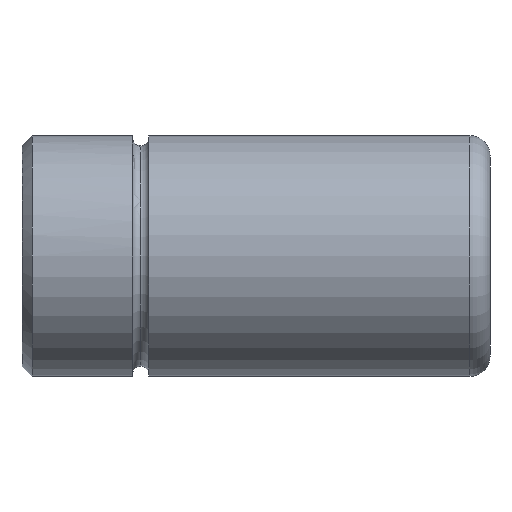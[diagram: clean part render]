
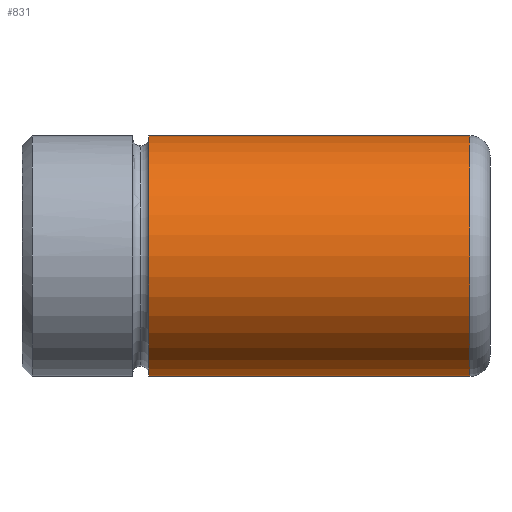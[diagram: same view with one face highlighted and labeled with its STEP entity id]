
A CAD part, front view. The second image highlights one B-rep face of the part: STEP entity #831.
In plain terms, the highlighted cylindrical face has radius 18 mm (diameter 36 mm), a partial arc.
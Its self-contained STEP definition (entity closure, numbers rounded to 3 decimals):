
#647=CARTESIAN_POINT('Vertex',(18.975,0.,18.)) ;
#654=CARTESIAN_POINT('Vertex',(18.975,0.,-18.)) ;
#680=CARTESIAN_POINT('Axis2P3D Location',(18.975,0.,0.)) ;
#684=CARTESIAN_POINT('Vertex',(18.975,-18.,0.)) ;
#687=CARTESIAN_POINT('Axis2P3D Location',(18.975,0.,0.)) ;
#771=CARTESIAN_POINT('Line Origine',(70.,0.,18.)) ;
#775=CARTESIAN_POINT('Vertex',(67.,0.,18.)) ;
#789=CARTESIAN_POINT('Vertex',(67.,0.,-18.)) ;
#792=CARTESIAN_POINT('Line Origine',(70.,0.,-18.)) ;
#806=CARTESIAN_POINT('Axis2P3D Location',(70.,0.,0.)) ;
#811=CARTESIAN_POINT('Axis2P3D Location',(67.,0.,0.)) ;
#815=CARTESIAN_POINT('Vertex',(67.,-18.,0.)) ;
#818=CARTESIAN_POINT('Axis2P3D Location',(67.,0.,0.)) ;
#681=DIRECTION('Axis2P3D Direction',(1.,-0.,0.)) ;
#688=DIRECTION('Axis2P3D Direction',(1.,-0.,0.)) ;
#772=DIRECTION('Vector Direction',(-1.,0.,0.)) ;
#793=DIRECTION('Vector Direction',(-1.,0.,0.)) ;
#807=DIRECTION('Axis2P3D Direction',(-1.,-0.,-0.)) ;
#808=DIRECTION('Axis2P3D XDirection',(0.,0.,-1.)) ;
#812=DIRECTION('Axis2P3D Direction',(-1.,-0.,-0.)) ;
#819=DIRECTION('Axis2P3D Direction',(-1.,-0.,-0.)) ;
#682=AXIS2_PLACEMENT_3D('Circle Axis2P3D',#680,#681,$) ;
#689=AXIS2_PLACEMENT_3D('Circle Axis2P3D',#687,#688,$) ;
#809=AXIS2_PLACEMENT_3D('Cylinder Axis2P3D',#806,#807,#808) ;
#813=AXIS2_PLACEMENT_3D('Circle Axis2P3D',#811,#812,$) ;
#820=AXIS2_PLACEMENT_3D('Circle Axis2P3D',#818,#819,$) ;
#824=ORIENTED_EDGE('',*,*,#796,.T.) ;
#825=ORIENTED_EDGE('',*,*,#817,.F.) ;
#826=ORIENTED_EDGE('',*,*,#822,.F.) ;
#827=ORIENTED_EDGE('',*,*,#777,.T.) ;
#828=ORIENTED_EDGE('',*,*,#691,.T.) ;
#829=ORIENTED_EDGE('',*,*,#686,.T.) ;
#773=VECTOR('Line Direction',#772,1.) ;
#794=VECTOR('Line Direction',#793,1.) ;
#831=ADVANCED_FACE('343-24 x 70',(#830),#810,.T.) ;
#683=CIRCLE('generated circle',#682,18.) ;
#690=CIRCLE('generated circle',#689,18.) ;
#814=CIRCLE('generated circle',#813,18.) ;
#821=CIRCLE('generated circle',#820,18.) ;
#810=CYLINDRICAL_SURFACE('generated cylinder',#809,18.) ;
#686=EDGE_CURVE('',#685,#655,#683,.T.) ;
#691=EDGE_CURVE('',#648,#685,#690,.T.) ;
#777=EDGE_CURVE('',#776,#648,#774,.T.) ;
#796=EDGE_CURVE('',#655,#790,#795,.F.) ;
#817=EDGE_CURVE('',#816,#790,#814,.F.) ;
#822=EDGE_CURVE('',#776,#816,#821,.F.) ;
#823=EDGE_LOOP('',(#824,#825,#826,#827,#828,#829)) ;
#830=FACE_OUTER_BOUND('',#823,.T.) ;
#774=LINE('Line',#771,#773) ;
#795=LINE('Line',#792,#794) ;
#648=VERTEX_POINT('',#647) ;
#655=VERTEX_POINT('',#654) ;
#685=VERTEX_POINT('',#684) ;
#776=VERTEX_POINT('',#775) ;
#790=VERTEX_POINT('',#789) ;
#816=VERTEX_POINT('',#815) ;
